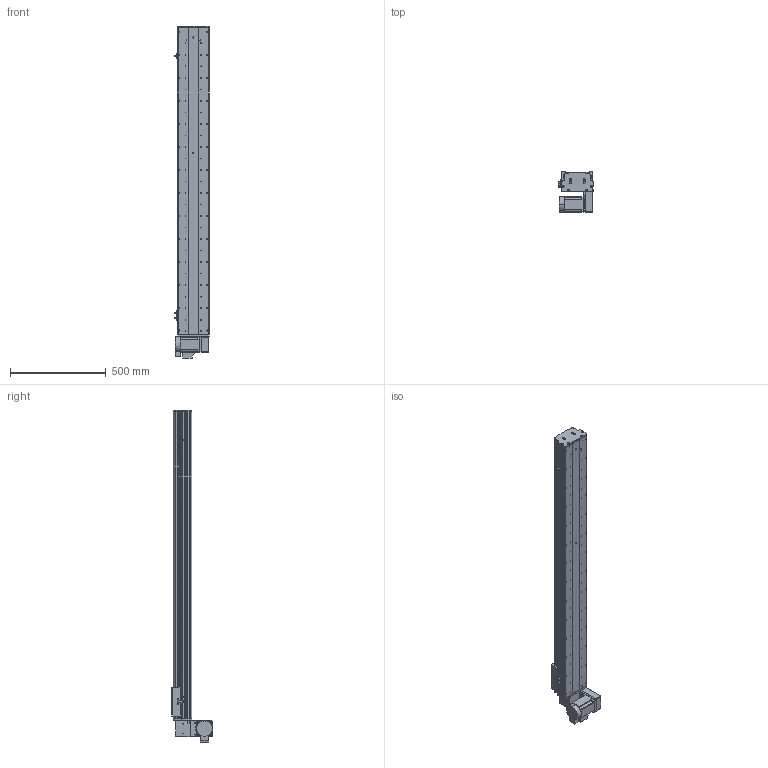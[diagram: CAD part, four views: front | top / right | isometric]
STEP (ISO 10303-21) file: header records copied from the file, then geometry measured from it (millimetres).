
FILE_DESCRIPTION (( 'STEP AP214' ), '1' );
FILE_NAME ('KSD165B-S1350-MRD-CM.STEP', '2017-10-17T00:50:40', ( '微软用户' ), ( '微软中国' ), 'SwSTEP 2.0', 'SolidWorks 2014', '' );
FILE_SCHEMA (( 'AUTOMOTIVE_DESIGN' ));
Length unit declared in the file: millimetre
Products named in the file (17): 165宽马达安装板同步带右; U倰嫖萇假蚾璃; U倰嫖萇EEㄜSX672; 覜茼え68遵圉猾敕; KSD165模组-同步带-防撞垫2; KSD165模组同步带-防撞垫1; KSD165耀郪-ヶ傷啣1-肮祭湍; KSD165模组-后端板1-同步带; KSD165模组-同步带滑动座-最新版; KSD165B-S1350-MRD-CM; 130宽模组马达安装板连板上下折丝杆同步带; 130宽模组保护罩上下左右折-同步带; HTPA26S5M250-A-H8 750W萇儂蚚; HTPA26S5M250-A-H8 400W萇儂蚚 ; KSD165模组-同步带防尘盖1-1350行程; KSD165模组同步带底板-1350行程; 拸秶雄ん750W侜督萇儂
Assembly tree (20 placements, depth 2):
  KSD165B-S1350-MRD-CM
    KSD165模组-同步带滑动座-最新版
    KSD165模组-后端板1-同步带
    KSD165耀郪-ヶ傷啣1-肮祭湍
    KSD165模组同步带-防撞垫1
    KSD165模组-同步带-防撞垫2
    覜茼え68遵圉猾敕
    U倰嫖萇EEㄜSX672  x3
    U倰嫖萇假蚾璃  x3
    165宽马达安装板同步带右
    拸秶雄ん750W侜督萇儂
    KSD165模组同步带底板-1350行程
    KSD165模组-同步带防尘盖1-1350行程
    HTPA26S5M250-A-H8 400W萇儂蚚 
    HTPA26S5M250-A-H8 750W萇儂蚚
    130宽模组保护罩上下左右折-同步带
    130宽模组马达安装板连板上下折丝杆同步带
Bounding box: 178.7 x 210 x 1730.5 mm (x, y, z)
Volume: 9495246.3 mm3; surface area: 2213047.5 mm2
Topology: 21 solids, 21 shells, 2029 faces, 5742 edges, 3752 vertices
Faces by surface type: cylinder 1323, plane 594, cone 112
Entity records: 66572 total; most frequent: CARTESIAN_POINT 13648, DIRECTION 10882, ORIENTED_EDGE 10144, EDGE_CURVE 5072, AXIS2_PLACEMENT_3D 4280, VERTEX_POINT 3344, CIRCLE 2448, LINE 2322
